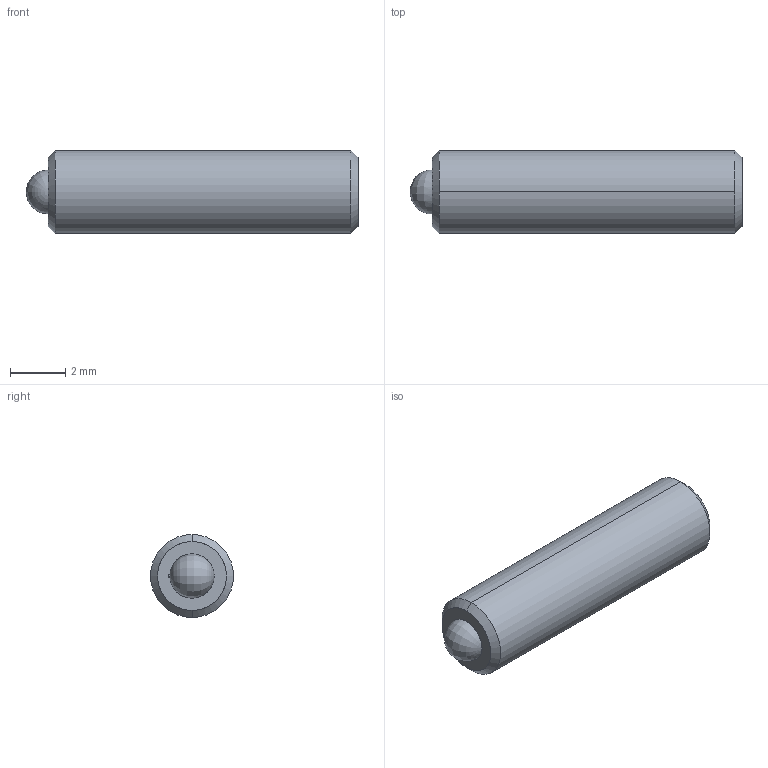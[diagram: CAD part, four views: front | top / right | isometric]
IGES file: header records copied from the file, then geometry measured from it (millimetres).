
Start section: SolidWorks IGES file using analytic representation for surfaces
Global section: file name: C:\Users\workpc\Desktop\KMA Solidworks\TS3-20 Series\TS3-20 High Vacuum\TS3-20 High Vacuum 3D Models\TS3-20-12-HV.IGS; native system: SolidWorks 2013; preprocessor: SolidWorks 2013; author: workpc; date: 130510.121405; units: millimetre
Bounding box: 12 x 3 x 3 mm (x, y, z)
Surface area: 139.2 mm2 (no closed solid volume)
Topology: 0 solids, 0 shells, 24 faces, 208 edges, 204 vertices
Faces by surface type: revolution 14, bspline 10
